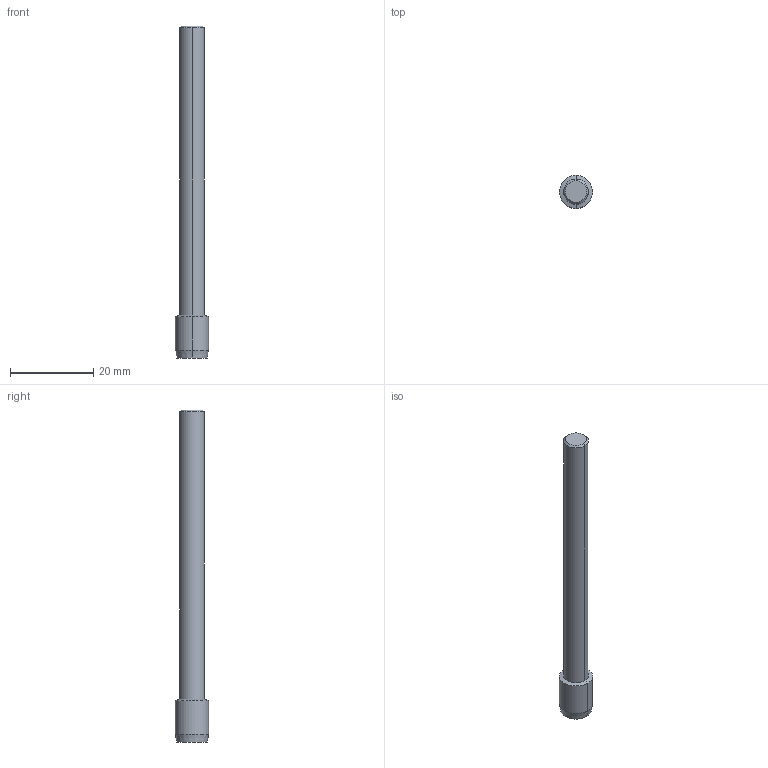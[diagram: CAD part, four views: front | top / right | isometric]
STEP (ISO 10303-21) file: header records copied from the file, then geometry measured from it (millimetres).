
FILE_DESCRIPTION(('no description'),'unknown implementation level');
FILE_NAME('solidPVbTomkGFc2GCipqmrk3rm1_Akc_1.STP',' ',('CIMSOURCE GmbH'),('CADClick - KiM GmbH - www.kimweb.de'),'unknown preprocess','ACIS','unknown authorization');
FILE_SCHEMA(('automotive_design'));
Length unit declared in the file: millimetre
Products named in the file (2): NOCUT; CUT
Bounding box: 8 x 8 x 80 mm (x, y, z)
Volume: 2475.9 mm3; surface area: 2085.9 mm2
Topology: 2 solids, 2 shells, 35 faces, 81 edges, 50 vertices
Faces by surface type: cylinder 16, cone 10, plane 9
Entity records: 2176 total; most frequent: CARTESIAN_POINT 387, DIRECTION 177, STYLED_ITEM 168, PRESENTATION_STYLE_ASSIGNMENT 168, COLOUR_RGB 168, ORIENTED_EDGE 162, EDGE_CURVE 81, CURVE_STYLE 81
